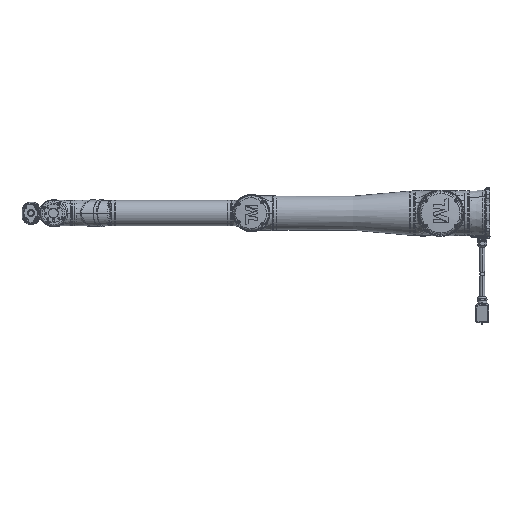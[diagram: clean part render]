
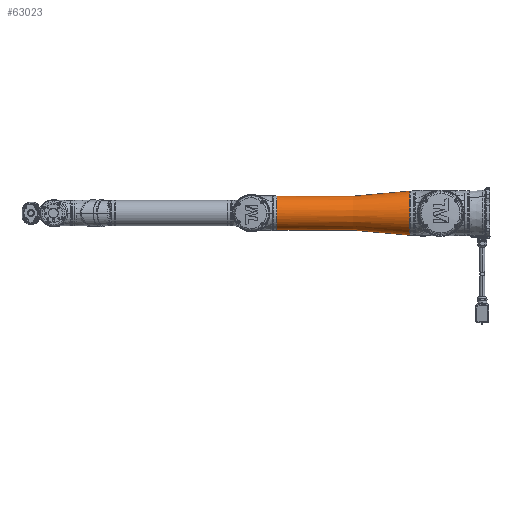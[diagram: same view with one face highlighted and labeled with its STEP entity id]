
A CAD part, left-side view. The second image highlights one B-rep face of the part: STEP entity #63023.
In plain terms, the highlighted face is a revolution surface.
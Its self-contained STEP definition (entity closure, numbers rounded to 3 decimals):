
#61929=CARTESIAN_POINT('',(0.,-15.543,
73.905));
#61930=CARTESIAN_POINT('',(0.,-35.422,
72.182));
#61931=CARTESIAN_POINT('',(0.,-162.028,
54.101));
#61932=CARTESIAN_POINT('',(0.,-311.19,
55.261));
#61933=CARTESIAN_POINT('',(0.,-440.386,
56.354));
#61934=CARTESIAN_POINT('',(0.,-461.322,
57.526));
#61947=CARTESIAN_POINT('',(0.,-15.543,
-73.905));
#61948=CARTESIAN_POINT('',(0.,-35.422,
-72.182));
#61949=CARTESIAN_POINT('',(0.,-162.028,
-54.101));
#61950=CARTESIAN_POINT('',(0.,-311.19,
-55.261));
#61951=CARTESIAN_POINT('',(0.,-440.386,
-56.354));
#61952=CARTESIAN_POINT('',(0.,-461.322,
-57.526));
#62029=CARTESIAN_POINT('',(0.,-15.543,0.));
#62030=DIRECTION('',(0.,-1.,0.));
#62031=DIRECTION('',(0.,0.,-1.));
#62032=AXIS2_PLACEMENT_3D('',#62029,#62030,#62031);
#62037=CARTESIAN_POINT('',(0.,-461.322,0.));
#62038=DIRECTION('',(0.,1.,0.));
#62039=DIRECTION('',(0.,0.,1.));
#62040=AXIS2_PLACEMENT_3D('',#62037,#62038,#62039);
#62465=CARTESIAN_POINT('',(0.,-15.543,
73.905));
#62466=CARTESIAN_POINT('',(0.,-15.543,
-73.905));
#62467=VERTEX_POINT('',#62465);
#62468=VERTEX_POINT('',#62466);
#62489=CARTESIAN_POINT('',(0.,-461.322,
-57.526));
#62490=CARTESIAN_POINT('',(0.,-461.322,
57.526));
#62491=VERTEX_POINT('',#62489);
#62492=VERTEX_POINT('',#62490);
#63000=CARTESIAN_POINT('',(0.,-480.449,58.904));
#63001=CARTESIAN_POINT('',(0.,-478.867,58.762));
#63002=CARTESIAN_POINT('',(0.,-451.652,56.45));
#63003=CARTESIAN_POINT('',(0.,-316.022,55.298));
#63004=CARTESIAN_POINT('',(0.,-156.823,54.061));
#63005=CARTESIAN_POINT('',(0.,-23.563,73.917));
#63006=CARTESIAN_POINT('',(0.,3.175,75.157));
#63007=CARTESIAN_POINT('',(0.,4.764,75.22));
#63012=CARTESIAN_POINT('',(0.,-499.485,0.));
#63013=DIRECTION('',(0.,1.,0.));
#63014=AXIS1_PLACEMENT('',#63012,#63013);
#63015=SURFACE_OF_REVOLUTION('',#63008,#63014);
#63016=ORIENTED_EDGE('',*,*,#62984,.F.);
#63017=ORIENTED_EDGE('',*,*,#62878,.T.);
#63019=ORIENTED_EDGE('',*,*,#63018,.F.);
#63020=ORIENTED_EDGE('',*,*,#62874,.F.);
#63021=EDGE_LOOP('',(#63016,#63017,#63019,#63020));
#63022=FACE_OUTER_BOUND('',#63021,.F.);
#61935=B_SPLINE_CURVE_WITH_KNOTS('',3,(#61929,#61930,#61931,#61932,#61933,
#61934),.UNSPECIFIED.,.F.,.F.,(4,1,1,4),(0.,0.134,
0.859,1.),.UNSPECIFIED.);
#61953=B_SPLINE_CURVE_WITH_KNOTS('',3,(#61947,#61948,#61949,#61950,#61951,
#61952),.UNSPECIFIED.,.F.,.F.,(4,1,1,4),(0.,0.134,
0.859,1.),.UNSPECIFIED.);
#62033=CIRCLE('',#62032,73.905);
#62041=CIRCLE('',#62040,57.526);
#62874=EDGE_CURVE('',#62467,#62492,#61935,.T.);
#62878=EDGE_CURVE('',#62468,#62491,#61953,.T.);
#62984=EDGE_CURVE('',#62468,#62467,#62033,.T.);
#63008=B_SPLINE_CURVE_WITH_KNOTS('',3,(#63000,#63001,#63002,#63003,#63004,
#63005,#63006,#63007),.UNSPECIFIED.,.F.,.F.,(4,1,1,1,1,4),(0.,
0.01,0.169,0.835,0.99,1.),
.UNSPECIFIED.);
#63018=EDGE_CURVE('',#62492,#62491,#62041,.T.);
#63023=ADVANCED_FACE('',(#63022),#63015,.T.);
